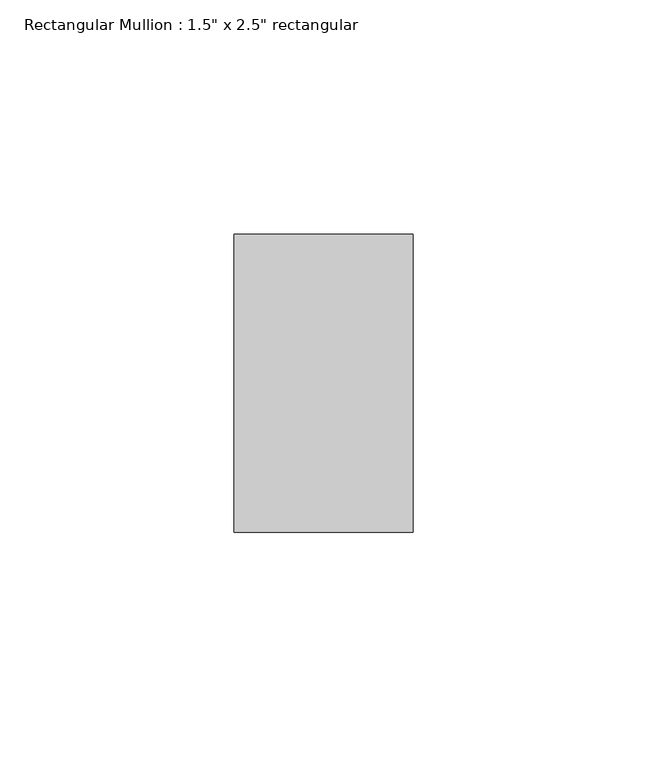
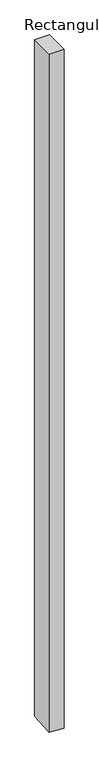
"""IFC4 building model written with IfcOpenShell, lengths in millimetres: member geometry."""

from ifc_helpers import new_model, si_unit, origin, place, context, project, spatial, faceted_brep, source, transform, mapped, element, save


def member_9319c4a2(model_context):
    return source(origin(), model_context, "Body", "Brep", [
        faceted_brep([(0.0, 31.75, 0.0), (-38.1, 31.75, 0.0), (-38.1, -31.75, 0.0), (0.0, -31.75, 0.0), (0.0, 31.75, -1825.0539892), (-38.1, 31.75, -1822.3371732), (-38.1, -31.75, -1826.8939623), (0.0, -31.75, -1829.6107782)], [[[0, 1, 2, 3]], [[1, 0, 4, 5]], [[2, 1, 5, 6]], [[3, 2, 6, 7]], [[0, 3, 7, 4]], [[4, 7, 6, 5]]]),
    ])


if __name__ == "__main__":
    model = new_model("IFC4")
    model_context = context("Model", 3, world=origin())
    ifc_project = project(units=[si_unit("LENGTHUNIT", "METRE", prefix="MILLI")], contexts=[model_context])
    site = spatial("IfcSite", under=ifc_project)
    building = spatial("IfcBuilding", under=site)
    placement = place(None, origin())
    member_shape = member_9319c4a2(model_context)
    element("IfcMember", 1, ObjectType="Rectangular Mullion : 1.5\" x 2.5\" rectangular", at=placement, inside=building, context=model_context, shape_type="MappedRepresentation", body=[
        mapped(member_shape, transform((0.0, 0.0, 0.0), x_axis=(1.0, 0.0, 0.0), y_axis=(0.0, 1.0, 0.0), z_axis=(0.0, 0.0, 1.0))),
    ])
    save(model, "model.ifc")
